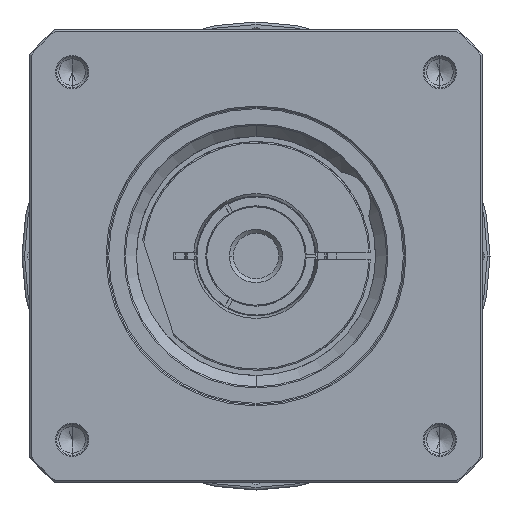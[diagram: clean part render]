
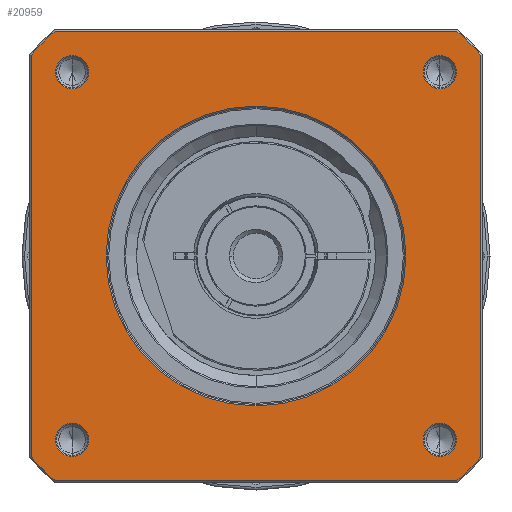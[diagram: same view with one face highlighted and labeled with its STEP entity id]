
A CAD part, left-side view. The second image highlights one B-rep face of the part: STEP entity #20959.
In plain terms, the highlighted planar face has unit normal (-1, 0, 0) as drawn and (0, 0, 1) by its records, which use the part's own axes.
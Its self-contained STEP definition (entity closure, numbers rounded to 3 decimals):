
#19710=CARTESIAN_POINT('',(0.,0.,
76.));
#19711=DIRECTION('',(0.,0.,-1.));
#19712=DIRECTION('',(0.,-1.,0.));
#19713=AXIS2_PLACEMENT_3D('',#19710,#19711,#19712);
#19715=CARTESIAN_POINT('',(0.,0.,
76.));
#19716=DIRECTION('',(0.,0.,-1.));
#19717=DIRECTION('',(0.,1.,0.));
#19718=AXIS2_PLACEMENT_3D('',#19715,#19716,#19717);
#19720=CARTESIAN_POINT('',(0.,0.,76.));
#19721=DIRECTION('',(0.,0.,1.));
#19722=DIRECTION('',(-0.746,-0.666,0.));
#19723=AXIS2_PLACEMENT_3D('',#19720,#19721,#19722);
#19735=DIRECTION('',(1.,0.,0.));
#19736=VECTOR('',#19735,154.58);
#19737=CARTESIAN_POINT('',(-77.29,-86.5,76.));
#19738=LINE('',#19737,#19736);
#19748=CARTESIAN_POINT('',(0.,0.,76.));
#19749=DIRECTION('',(0.,0.,1.));
#19750=DIRECTION('',(0.666,-0.746,0.));
#19751=AXIS2_PLACEMENT_3D('',#19748,#19749,#19750);
#19763=DIRECTION('',(0.,1.,0.));
#19764=VECTOR('',#19763,154.58);
#19765=CARTESIAN_POINT('',(86.5,-77.29,76.));
#19766=LINE('',#19765,#19764);
#19776=CARTESIAN_POINT('',(0.,0.,76.));
#19777=DIRECTION('',(0.,0.,1.));
#19778=DIRECTION('',(0.746,0.666,0.));
#19779=AXIS2_PLACEMENT_3D('',#19776,#19777,#19778);
#19791=DIRECTION('',(-1.,0.,0.));
#19792=VECTOR('',#19791,154.58);
#19793=CARTESIAN_POINT('',(77.29,86.5,76.));
#19794=LINE('',#19793,#19792);
#19799=CARTESIAN_POINT('',(0.,0.,76.));
#19800=DIRECTION('',(0.,0.,1.));
#19801=DIRECTION('',(-0.666,0.746,0.));
#19802=AXIS2_PLACEMENT_3D('',#19799,#19800,#19801);
#19819=DIRECTION('',(0.,-1.,0.));
#19820=VECTOR('',#19819,154.58);
#19821=CARTESIAN_POINT('',(-86.5,77.29,76.));
#19822=LINE('',#19821,#19820);
#19905=CARTESIAN_POINT('',(-70.711,70.711,76.));
#19906=DIRECTION('',(0.,0.,1.));
#19907=DIRECTION('',(-1.,0.,0.));
#19908=AXIS2_PLACEMENT_3D('',#19905,#19906,#19907);
#19923=CARTESIAN_POINT('',(-70.711,70.711,76.));
#19924=DIRECTION('',(0.,0.,1.));
#19925=DIRECTION('',(1.,0.,0.));
#19926=AXIS2_PLACEMENT_3D('',#19923,#19924,#19925);
#19959=CARTESIAN_POINT('',(70.711,70.711,76.));
#19960=DIRECTION('',(0.,0.,1.));
#19961=DIRECTION('',(-1.,0.,0.));
#19962=AXIS2_PLACEMENT_3D('',#19959,#19960,#19961);
#19977=CARTESIAN_POINT('',(70.711,70.711,76.));
#19978=DIRECTION('',(0.,0.,1.));
#19979=DIRECTION('',(1.,0.,0.));
#19980=AXIS2_PLACEMENT_3D('',#19977,#19978,#19979);
#20013=CARTESIAN_POINT('',(70.711,-70.711,76.));
#20014=DIRECTION('',(0.,0.,1.));
#20015=DIRECTION('',(-1.,0.,0.));
#20016=AXIS2_PLACEMENT_3D('',#20013,#20014,#20015);
#20031=CARTESIAN_POINT('',(70.711,-70.711,76.));
#20032=DIRECTION('',(0.,0.,1.));
#20033=DIRECTION('',(1.,0.,0.));
#20034=AXIS2_PLACEMENT_3D('',#20031,#20032,#20033);
#20067=CARTESIAN_POINT('',(-70.711,-70.711,76.));
#20068=DIRECTION('',(0.,0.,1.));
#20069=DIRECTION('',(-1.,0.,0.));
#20070=AXIS2_PLACEMENT_3D('',#20067,#20068,#20069);
#20085=CARTESIAN_POINT('',(-70.711,-70.711,76.));
#20086=DIRECTION('',(0.,0.,1.));
#20087=DIRECTION('',(1.,0.,0.));
#20088=AXIS2_PLACEMENT_3D('',#20085,#20086,#20087);
#20217=CARTESIAN_POINT('',(86.5,-77.29,76.));
#20218=CARTESIAN_POINT('',(86.5,77.29,76.));
#20219=VERTEX_POINT('',#20217);
#20220=VERTEX_POINT('',#20218);
#20225=CARTESIAN_POINT('',(77.29,-86.5,76.));
#20226=VERTEX_POINT('',#20225);
#20229=CARTESIAN_POINT('',(-77.29,-86.5,76.));
#20230=VERTEX_POINT('',#20229);
#20233=CARTESIAN_POINT('',(-86.5,-77.29,76.));
#20234=VERTEX_POINT('',#20233);
#20237=CARTESIAN_POINT('',(-86.5,77.29,76.));
#20238=VERTEX_POINT('',#20237);
#20241=CARTESIAN_POINT('',(-77.29,86.5,76.));
#20242=VERTEX_POINT('',#20241);
#20245=CARTESIAN_POINT('',(77.29,86.5,76.));
#20246=VERTEX_POINT('',#20245);
#20255=CARTESIAN_POINT('',(-77.111,70.711,76.));
#20256=CARTESIAN_POINT('',(-64.311,70.711,76.));
#20257=VERTEX_POINT('',#20255);
#20258=VERTEX_POINT('',#20256);
#20281=CARTESIAN_POINT('',(77.111,70.711,76.));
#20282=CARTESIAN_POINT('',(64.311,70.711,76.));
#20283=VERTEX_POINT('',#20281);
#20284=VERTEX_POINT('',#20282);
#20289=CARTESIAN_POINT('',(77.111,-70.711,76.));
#20290=CARTESIAN_POINT('',(64.311,-70.711,76.));
#20291=VERTEX_POINT('',#20289);
#20292=VERTEX_POINT('',#20290);
#20297=CARTESIAN_POINT('',(-64.311,-70.711,76.));
#20298=CARTESIAN_POINT('',(-77.111,-70.711,76.));
#20299=VERTEX_POINT('',#20297);
#20300=VERTEX_POINT('',#20298);
#20305=CARTESIAN_POINT('',(0.,-57.65,76.));
#20306=CARTESIAN_POINT('',(0.,57.65,
76.));
#20307=VERTEX_POINT('',#20305);
#20308=VERTEX_POINT('',#20306);
#20907=CARTESIAN_POINT('',(0.,0.,76.));
#20908=DIRECTION('',(0.,0.,1.));
#20909=DIRECTION('',(1.,0.,0.));
#20910=AXIS2_PLACEMENT_3D('',#20907,#20908,#20909);
#20911=PLANE('',#20910);
#20913=ORIENTED_EDGE('',*,*,#20912,.F.);
#20915=ORIENTED_EDGE('',*,*,#20914,.F.);
#20917=ORIENTED_EDGE('',*,*,#20916,.F.);
#20919=ORIENTED_EDGE('',*,*,#20918,.F.);
#20921=ORIENTED_EDGE('',*,*,#20920,.F.);
#20923=ORIENTED_EDGE('',*,*,#20922,.F.);
#20925=ORIENTED_EDGE('',*,*,#20924,.F.);
#20927=ORIENTED_EDGE('',*,*,#20926,.F.);
#20928=EDGE_LOOP('',(#20913,#20915,#20917,#20919,#20921,#20923,#20925,#20927));
#20929=FACE_OUTER_BOUND('',#20928,.F.);
#20930=ORIENTED_EDGE('',*,*,#20897,.F.);
#20932=ORIENTED_EDGE('',*,*,#20931,.F.);
#20933=EDGE_LOOP('',(#20930,#20932));
#20934=FACE_BOUND('',#20933,.F.);
#20936=ORIENTED_EDGE('',*,*,#20935,.T.);
#20938=ORIENTED_EDGE('',*,*,#20937,.T.);
#20939=EDGE_LOOP('',(#20936,#20938));
#20940=FACE_BOUND('',#20939,.F.);
#20942=ORIENTED_EDGE('',*,*,#20941,.T.);
#20944=ORIENTED_EDGE('',*,*,#20943,.T.);
#20945=EDGE_LOOP('',(#20942,#20944));
#20946=FACE_BOUND('',#20945,.F.);
#20948=ORIENTED_EDGE('',*,*,#20947,.T.);
#20950=ORIENTED_EDGE('',*,*,#20949,.T.);
#20951=EDGE_LOOP('',(#20948,#20950));
#20952=FACE_BOUND('',#20951,.F.);
#20954=ORIENTED_EDGE('',*,*,#20953,.T.);
#20956=ORIENTED_EDGE('',*,*,#20955,.T.);
#20957=EDGE_LOOP('',(#20954,#20956));
#20958=FACE_BOUND('',#20957,.F.);
#20959=ADVANCED_FACE('',(#20929,#20934,#20940,#20946,#20952,#20958),#20911,.T.);
#19714=CIRCLE('',#19713,57.65);
#19719=CIRCLE('',#19718,57.65);
#19724=CIRCLE('',#19723,116.);
#19752=CIRCLE('',#19751,116.);
#19780=CIRCLE('',#19779,116.);
#19803=CIRCLE('',#19802,116.);
#19909=CIRCLE('',#19908,6.4);
#19927=CIRCLE('',#19926,6.4);
#19963=CIRCLE('',#19962,6.4);
#19981=CIRCLE('',#19980,6.4);
#20017=CIRCLE('',#20016,6.4);
#20035=CIRCLE('',#20034,6.4);
#20071=CIRCLE('',#20070,6.4);
#20089=CIRCLE('',#20088,6.4);
#20897=EDGE_CURVE('',#20307,#20308,#19714,.T.);
#20912=EDGE_CURVE('',#20234,#20230,#19724,.T.);
#20914=EDGE_CURVE('',#20238,#20234,#19822,.T.);
#20916=EDGE_CURVE('',#20242,#20238,#19803,.T.);
#20918=EDGE_CURVE('',#20246,#20242,#19794,.T.);
#20920=EDGE_CURVE('',#20220,#20246,#19780,.T.);
#20922=EDGE_CURVE('',#20219,#20220,#19766,.T.);
#20924=EDGE_CURVE('',#20226,#20219,#19752,.T.);
#20926=EDGE_CURVE('',#20230,#20226,#19738,.T.);
#20931=EDGE_CURVE('',#20308,#20307,#19719,.T.);
#20935=EDGE_CURVE('',#20257,#20258,#19909,.T.);
#20937=EDGE_CURVE('',#20258,#20257,#19927,.T.);
#20941=EDGE_CURVE('',#20284,#20283,#19963,.T.);
#20943=EDGE_CURVE('',#20283,#20284,#19981,.T.);
#20947=EDGE_CURVE('',#20292,#20291,#20017,.T.);
#20949=EDGE_CURVE('',#20291,#20292,#20035,.T.);
#20953=EDGE_CURVE('',#20300,#20299,#20071,.T.);
#20955=EDGE_CURVE('',#20299,#20300,#20089,.T.);
